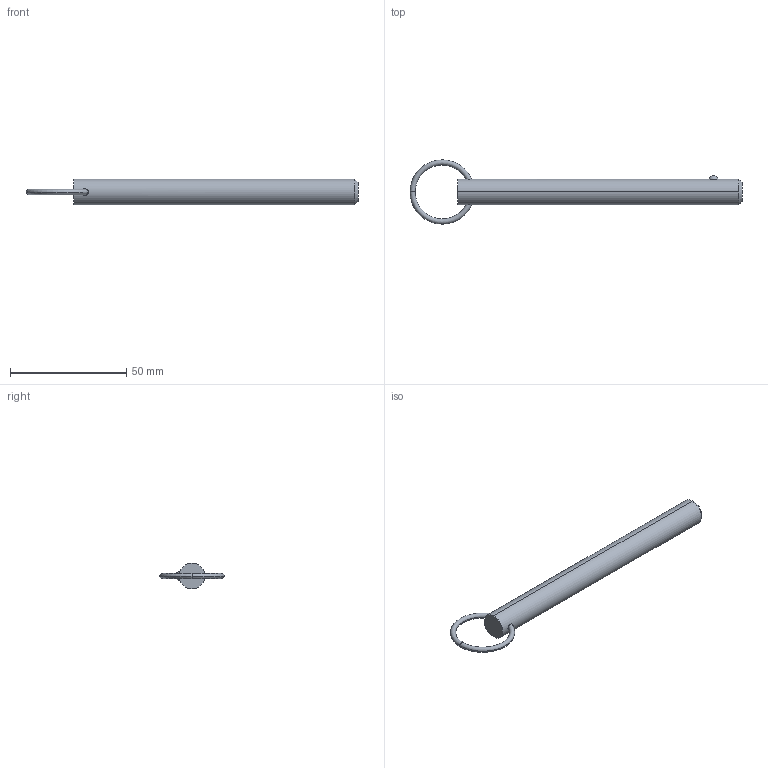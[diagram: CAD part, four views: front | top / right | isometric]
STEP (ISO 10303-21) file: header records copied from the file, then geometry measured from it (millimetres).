
FILE_DESCRIPTION (( 'STEP AP203' ), '1' );
FILE_NAME ('33012.W4340.step', '2024-11-01T14:11:52', ( '' ), ( '' ), 'SwSTEP 2.0', 'SolidWorks 2019', '' );
FILE_SCHEMA (( 'CONFIG_CONTROL_DESIGN' ));
Length unit declared in the file: millimetre
Products named in the file (3): Part2_33012.W4340; Part1_33012.W4340; 33012.W4340
Assembly tree (2 placements, depth 2):
  33012.W4340
    Part1_33012.W4340
    Part2_33012.W4340
Bounding box: 142.63 x 27.62 x 11.11 mm (x, y, z)
Volume: 12069.8 mm3; surface area: 5079.7 mm2
Topology: 2 solids, 2 shells, 16 faces, 31 edges, 18 vertices
Faces by surface type: torus 8, sphere 2, cone 2, cylinder 2, plane 2
Entity records: 863 total; most frequent: CARTESIAN_POINT 220, DIRECTION 88, ORIENTED_EDGE 62, AXIS2_PLACEMENT_3D 42, EDGE_CURVE 31, PERSON_AND_ORGANIZATION 26, CIRCLE 21, LOCAL_TIME 19
